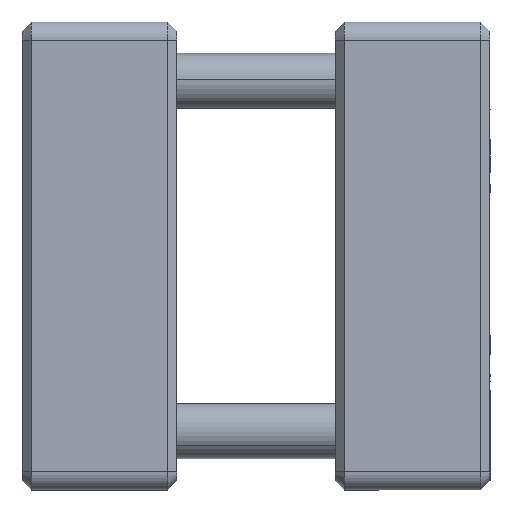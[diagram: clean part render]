
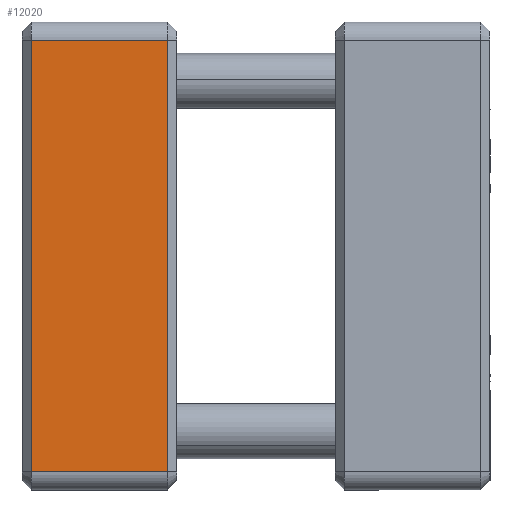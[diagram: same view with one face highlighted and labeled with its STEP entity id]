
A CAD part, left-side view. The second image highlights one B-rep face of the part: STEP entity #12020.
In plain terms, the highlighted planar face has unit normal (-1, 0, 0).
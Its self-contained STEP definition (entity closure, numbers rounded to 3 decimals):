
#264 = DIRECTION ( 'NONE',  ( 0., 0., -1. ) ) ;
#457 = PLANE ( 'NONE',  #617 ) ;
#617 = AXIS2_PLACEMENT_3D ( 'NONE', #10999, #13886, #264 ) ;
#1105 = CARTESIAN_POINT ( 'NONE',  ( -12.7, 12.2, 11.7 ) ) ;
#1782 = LINE ( 'NONE', #16758, #5120 ) ;
#3292 = DIRECTION ( 'NONE',  ( 0., 0., 1. ) ) ;
#3536 = DIRECTION ( 'NONE',  ( 0., -1., 0. ) ) ;
#4535 = ORIENTED_EDGE ( 'NONE', *, *, #8821, .T. ) ;
#4718 = VECTOR ( 'NONE', #3292, 1000. ) ;
#4771 = CARTESIAN_POINT ( 'NONE',  ( -12.7, 4.8, -12.7 ) ) ;
#4932 = ORIENTED_EDGE ( 'NONE', *, *, #15048, .T. ) ;
#5120 = VECTOR ( 'NONE', #16667, 1000. ) ;
#5157 = VERTEX_POINT ( 'NONE', #11779 ) ;
#7249 = VERTEX_POINT ( 'NONE', #10454 ) ;
#7294 = VECTOR ( 'NONE', #15608, 1000. ) ;
#7740 = CARTESIAN_POINT ( 'NONE',  ( -12.7, 4.8, -11.7 ) ) ;
#8466 = VERTEX_POINT ( 'NONE', #1105 ) ;
#8821 = EDGE_CURVE ( 'NONE', #5157, #18326, #13873, .T. ) ;
#10454 = CARTESIAN_POINT ( 'NONE',  ( -12.7, 4.8, 11.7 ) ) ;
#10801 = CARTESIAN_POINT ( 'NONE',  ( -12.7, 12.7, -11.7 ) ) ;
#10821 = EDGE_CURVE ( 'NONE', #18326, #7249, #13826, .T. ) ;
#10907 = FACE_OUTER_BOUND ( 'NONE', #11290, .T. ) ;
#10999 = CARTESIAN_POINT ( 'NONE',  ( -12.7, 12.7, -12.7 ) ) ;
#11250 = CARTESIAN_POINT ( 'NONE',  ( -12.7, 12.7, 11.7 ) ) ;
#11290 = EDGE_LOOP ( 'NONE', ( #4932, #16744, #4535, #15576 ) ) ;
#11779 = CARTESIAN_POINT ( 'NONE',  ( -12.7, 12.2, -11.7 ) ) ;
#12020 = ADVANCED_FACE ( 'NONE', ( #10907 ), #457, .T. ) ;
#12287 = VECTOR ( 'NONE', #3536, 1000. ) ;
#13826 = LINE ( 'NONE', #4771, #4718 ) ;
#13873 = LINE ( 'NONE', #10801, #12287 ) ;
#13886 = DIRECTION ( 'NONE',  ( -1., 0., 0. ) ) ;
#14336 = LINE ( 'NONE', #11250, #7294 ) ;
#15048 = EDGE_CURVE ( 'NONE', #7249, #8466, #14336, .T. ) ;
#15576 = ORIENTED_EDGE ( 'NONE', *, *, #10821, .T. ) ;
#15608 = DIRECTION ( 'NONE',  ( 0., 1., 0. ) ) ;
#16667 = DIRECTION ( 'NONE',  ( 0., 0., -1. ) ) ;
#16679 = EDGE_CURVE ( 'NONE', #8466, #5157, #1782, .T. ) ;
#16744 = ORIENTED_EDGE ( 'NONE', *, *, #16679, .T. ) ;
#16758 = CARTESIAN_POINT ( 'NONE',  ( -12.7, 12.2, -12.7 ) ) ;
#18326 = VERTEX_POINT ( 'NONE', #7740 ) ;
